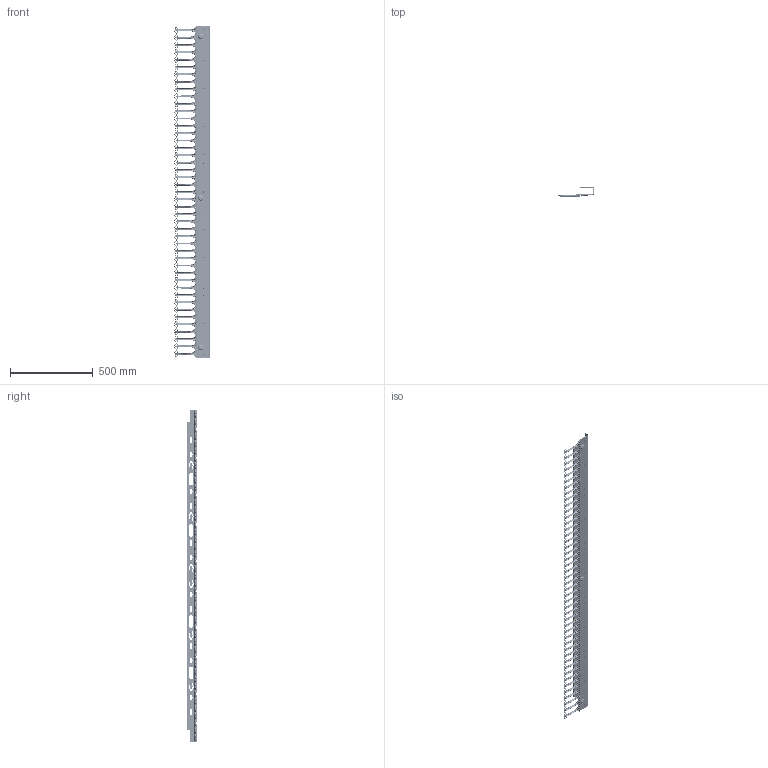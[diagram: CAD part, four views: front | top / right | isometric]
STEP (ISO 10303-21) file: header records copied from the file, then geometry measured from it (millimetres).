
FILE_DESCRIPTION (( 'STEP AP203' ), '1' );
FILE_NAME ('ps1cm217.STEP', '2020-02-06T20:31:24', ( '' ), ( '' ), 'SwSTEP 2.0', 'SolidWorks 2016', '' );
FILE_SCHEMA (( 'CONFIG_CONTROL_DESIGN' ));
Length unit declared in the file: millimetre
Products named in the file (4): 87927989_9U; 89165554; 89165548_89165548; ps1cm217
Assembly tree (7 placements, depth 3):
  ps1cm217
    89165554
      89165548_89165548
      87927989_9U  x5
Bounding box: 212.41 x 59.13 x 2007.36 mm (x, y, z)
Volume: 1583203.7 mm3; surface area: 1445052.9 mm2
Topology: 6 solids, 6 shells, 16347 faces, 42679 edges, 25838 vertices
Faces by surface type: bspline 4998, cylinder 4881, plane 4417, torus 1514, sphere 370, cone 167
Entity records: 329812 total; most frequent: CARTESIAN_POINT 245157, ORIENTED_EDGE 19928, DIRECTION 14145, EDGE_CURVE 9964, VERTEX_POINT 6198, AXIS2_PLACEMENT_3D 5116, EDGE_LOOP 4028, VECTOR 3913
